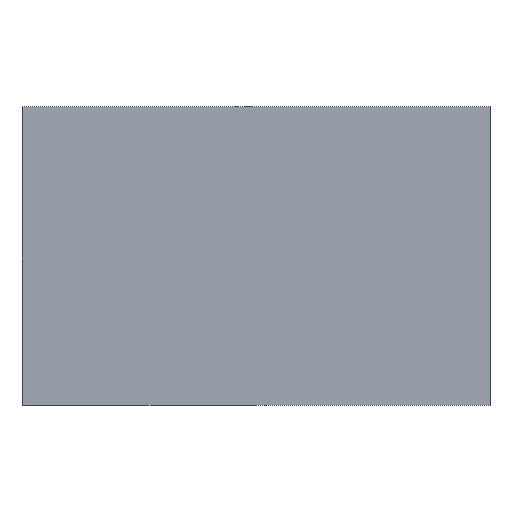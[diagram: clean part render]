
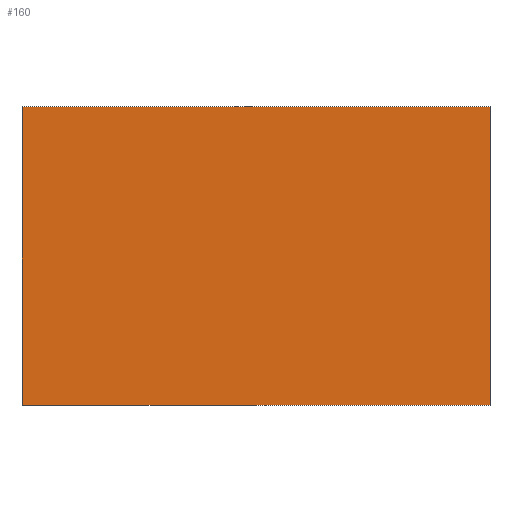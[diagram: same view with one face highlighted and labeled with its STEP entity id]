
A CAD part, top view. The second image highlights one B-rep face of the part: STEP entity #160.
In plain terms, the highlighted planar face has unit normal (0, 0, 1).
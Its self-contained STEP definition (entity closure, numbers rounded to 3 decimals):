
#2 = VECTOR ( 'NONE', #198, 1000. ) ;
#11 = EDGE_CURVE ( 'NONE', #64, #59, #33, .T. ) ;
#13 = LINE ( 'NONE', #132, #2 ) ;
#15 = CARTESIAN_POINT ( 'NONE',  ( -852.5, 543.75, 18. ) ) ;
#17 = ORIENTED_EDGE ( 'NONE', *, *, #11, .T. ) ;
#26 = AXIS2_PLACEMENT_3D ( 'NONE', #89, #161, #123 ) ;
#28 = DIRECTION ( 'NONE',  ( 0., -1., 0. ) ) ;
#33 = LINE ( 'NONE', #142, #112 ) ;
#39 = LINE ( 'NONE', #151, #117 ) ;
#47 = DIRECTION ( 'NONE',  ( 0., 1., 0. ) ) ;
#54 = CARTESIAN_POINT ( 'NONE',  ( 852.5, 543.75, 18. ) ) ;
#59 = VERTEX_POINT ( 'NONE', #54 ) ;
#60 = VECTOR ( 'NONE', #28, 1000. ) ;
#61 = PLANE ( 'NONE',  #26 ) ;
#64 = VERTEX_POINT ( 'NONE', #184 ) ;
#72 = VERTEX_POINT ( 'NONE', #182 ) ;
#79 = FACE_OUTER_BOUND ( 'NONE', #97, .T. ) ;
#89 = CARTESIAN_POINT ( 'NONE',  ( 0., 0., 18. ) ) ;
#97 = EDGE_LOOP ( 'NONE', ( #190, #105, #17, #167 ) ) ;
#101 = LINE ( 'NONE', #15, #60 ) ;
#104 = CARTESIAN_POINT ( 'NONE',  ( -852.5, 543.75, 18. ) ) ;
#105 = ORIENTED_EDGE ( 'NONE', *, *, #145, .T. ) ;
#109 = EDGE_CURVE ( 'NONE', #59, #178, #39, .T. ) ;
#112 = VECTOR ( 'NONE', #47, 1000. ) ;
#117 = VECTOR ( 'NONE', #197, 1000. ) ;
#123 = DIRECTION ( 'NONE',  ( 1., 0., 0. ) ) ;
#125 = EDGE_CURVE ( 'NONE', #178, #72, #101, .T. ) ;
#132 = CARTESIAN_POINT ( 'NONE',  ( -852.5, -543.75, 18. ) ) ;
#142 = CARTESIAN_POINT ( 'NONE',  ( 852.5, 543.75, 18. ) ) ;
#145 = EDGE_CURVE ( 'NONE', #72, #64, #13, .T. ) ;
#151 = CARTESIAN_POINT ( 'NONE',  ( -852.5, 543.75, 18. ) ) ;
#160 = ADVANCED_FACE ( 'NONE', ( #79 ), #61, .T. ) ;
#161 = DIRECTION ( 'NONE',  ( 0., 0., 1. ) ) ;
#167 = ORIENTED_EDGE ( 'NONE', *, *, #109, .T. ) ;
#178 = VERTEX_POINT ( 'NONE', #104 ) ;
#182 = CARTESIAN_POINT ( 'NONE',  ( -852.5, -543.75, 18. ) ) ;
#184 = CARTESIAN_POINT ( 'NONE',  ( 852.5, -543.75, 18. ) ) ;
#190 = ORIENTED_EDGE ( 'NONE', *, *, #125, .T. ) ;
#197 = DIRECTION ( 'NONE',  ( -1., 0., 0. ) ) ;
#198 = DIRECTION ( 'NONE',  ( 1., 0., 0. ) ) ;
